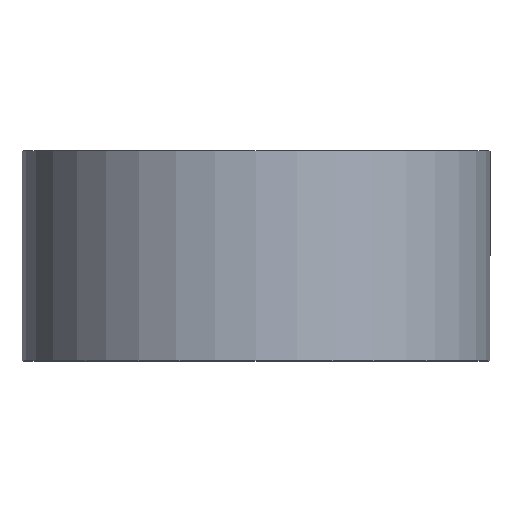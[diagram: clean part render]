
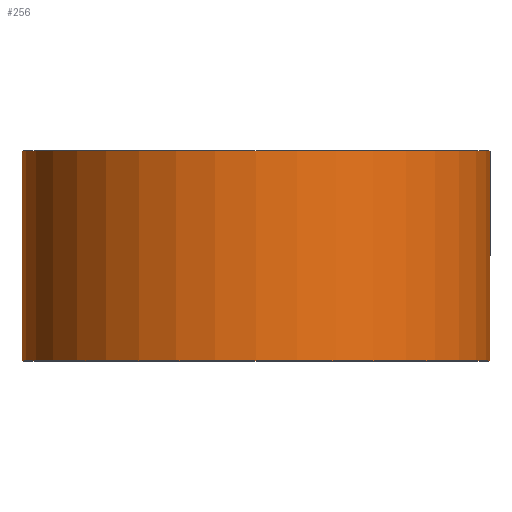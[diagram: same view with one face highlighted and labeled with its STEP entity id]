
A CAD part, top view. The second image highlights one B-rep face of the part: STEP entity #256.
In plain terms, the highlighted cylindrical face has radius 39 mm (diameter 78 mm), a partial arc.
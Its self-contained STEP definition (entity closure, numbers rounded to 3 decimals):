
#1 = CARTESIAN_POINT ( 'NONE',  ( 39., 35., 0. ) ) ;
#8 = VERTEX_POINT ( 'NONE', #88 ) ;
#16 = DIRECTION ( 'NONE',  ( 0., 1., 0. ) ) ;
#27 = AXIS2_PLACEMENT_3D ( 'NONE', #265, #195, #73 ) ;
#29 = ORIENTED_EDGE ( 'NONE', *, *, #175, .T. ) ;
#44 = CARTESIAN_POINT ( 'NONE',  ( 0., 35., 0. ) ) ;
#45 = CARTESIAN_POINT ( 'NONE',  ( -39., 35., 0. ) ) ;
#66 = CYLINDRICAL_SURFACE ( 'NONE', #290, 39. ) ;
#69 = VERTEX_POINT ( 'NONE', #1 ) ;
#73 = DIRECTION ( 'NONE',  ( -1., 0., 0. ) ) ;
#83 = ORIENTED_EDGE ( 'NONE', *, *, #204, .F. ) ;
#85 = EDGE_CURVE ( 'NONE', #8, #283, #203, .T. ) ;
#87 = CARTESIAN_POINT ( 'NONE',  ( -39., 0., 0. ) ) ;
#88 = CARTESIAN_POINT ( 'NONE',  ( -39., 0., 0. ) ) ;
#91 = ORIENTED_EDGE ( 'NONE', *, *, #85, .T. ) ;
#102 = AXIS2_PLACEMENT_3D ( 'NONE', #44, #292, #158 ) ;
#107 = VECTOR ( 'NONE', #207, 1000. ) ;
#118 = FACE_OUTER_BOUND ( 'NONE', #167, .T. ) ;
#157 = VERTEX_POINT ( 'NONE', #45 ) ;
#158 = DIRECTION ( 'NONE',  ( -1., 0., 0. ) ) ;
#162 = CIRCLE ( 'NONE', #102, 39. ) ;
#164 = CARTESIAN_POINT ( 'NONE',  ( 0., 0., 0. ) ) ;
#167 = EDGE_LOOP ( 'NONE', ( #91, #29, #83, #271 ) ) ;
#168 = EDGE_CURVE ( 'NONE', #8, #157, #289, .T. ) ;
#175 = EDGE_CURVE ( 'NONE', #283, #69, #228, .T. ) ;
#195 = DIRECTION ( 'NONE',  ( 0., 1., 0. ) ) ;
#203 = CIRCLE ( 'NONE', #27, 39. ) ;
#204 = EDGE_CURVE ( 'NONE', #157, #69, #162, .T. ) ;
#207 = DIRECTION ( 'NONE',  ( 0., 1., 0. ) ) ;
#210 = DIRECTION ( 'NONE',  ( 0., 1., 0. ) ) ;
#228 = LINE ( 'NONE', #275, #107 ) ;
#242 = CARTESIAN_POINT ( 'NONE',  ( 39., 0., 0. ) ) ;
#245 = VECTOR ( 'NONE', #210, 1000. ) ;
#256 = ADVANCED_FACE ( 'NONE', ( #118 ), #66, .T. ) ;
#257 = DIRECTION ( 'NONE',  ( -1., 0., 0. ) ) ;
#265 = CARTESIAN_POINT ( 'NONE',  ( 0., 0., 0. ) ) ;
#271 = ORIENTED_EDGE ( 'NONE', *, *, #168, .F. ) ;
#275 = CARTESIAN_POINT ( 'NONE',  ( 39., 0., 0. ) ) ;
#283 = VERTEX_POINT ( 'NONE', #242 ) ;
#289 = LINE ( 'NONE', #87, #245 ) ;
#290 = AXIS2_PLACEMENT_3D ( 'NONE', #164, #16, #257 ) ;
#292 = DIRECTION ( 'NONE',  ( 0., 1., 0. ) ) ;
